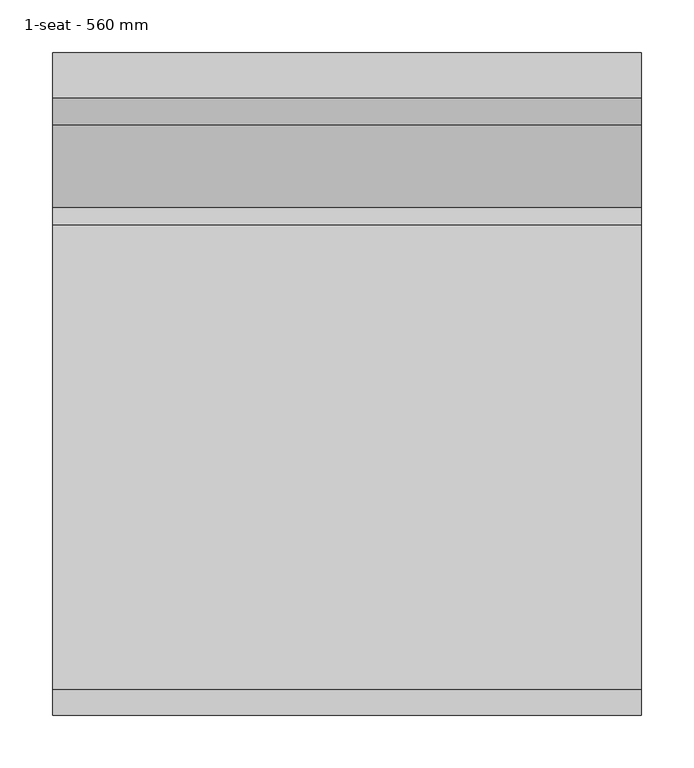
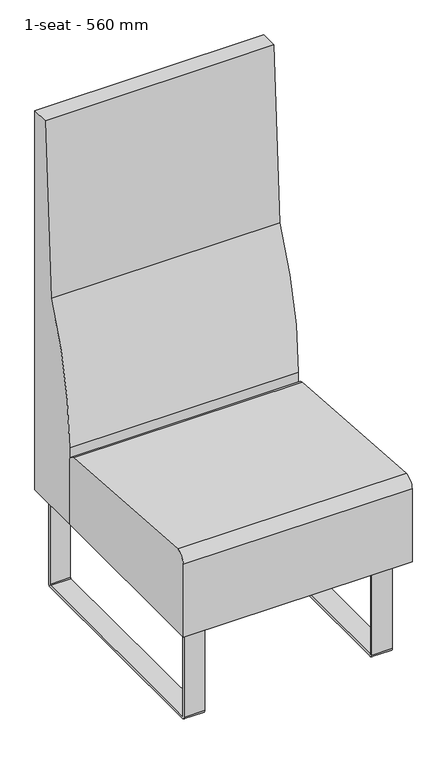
"""IFC4 building model written with IfcOpenShell, lengths in millimetres: furniture geometry, MATERIA-Monolite-Sofa-Extended_Back : 1-seat - 560 mm."""

from ifc_helpers import new_model, si_unit, point, frame, frame_2d, origin, place, context, project, spatial, polyline, circle_curve, trimmed, segment, composite_curve, outline, extrude, source, transform, mapped, element, save


def furniture_1_seat_560_mm_57b8e91f(model_context):
    return source(origin(), model_context, "Body", "SweptSolid", [
        extrude(outline(composite_curve([segment(trimmed(circle_curve(frame_2d((-23.0000292, 239.0000149)), 8.0), [point((-23.0000292, 247.0000149))], [point((-15.0000292, 239.0000149))], False, "CARTESIAN"), True, "CONTINUOUS"), segment(polyline([(-15.0000292, 239.0000149), (-15.0000292, 8.0)]), True, "CONTINUOUS"), segment(trimmed(circle_curve(frame_2d((-23.0000292, 8.0)), 8.0), [point((-15.0000292, 8.0))], [point((-23.0000292, 0.0))], False, "CARTESIAN"), True, "CONTINUOUS"), segment(polyline([(-23.0000292, 0.0), (-582.0, 0.0)]), True, "CONTINUOUS"), segment(trimmed(circle_curve(frame_2d((-582.0, 8.0)), 8.0), [point((-582.0, 0.0))], [point((-590.0, 8.0))], False, "CARTESIAN"), True, "CONTINUOUS"), segment(polyline([(-590.0, 8.0), (-590.0, 248.000015), (-584.0, 248.000015), (-584.0, 8.0)]), True, "CONTINUOUS"), segment(trimmed(circle_curve(frame_2d((-582.0, 8.0)), 2.0), [point((-584.0, 8.0))], [point((-582.0, 6.0))], True, "CARTESIAN"), True, "CONTINUOUS"), segment(polyline([(-582.0, 6.0), (-23.0000292, 6.0)]), True, "CONTINUOUS"), segment(trimmed(circle_curve(frame_2d((-23.0000292, 8.0)), 2.0), [point((-23.0000292, 6.0))], [point((-21.0000292, 8.0))], True, "CARTESIAN"), True, "CONTINUOUS"), segment(polyline([(-21.0000292, 8.0), (-21.0000292, 239.0000149)]), True, "CONTINUOUS"), segment(trimmed(circle_curve(frame_2d((-23.0000292, 239.0000149)), 2.0), [point((-21.0000292, 239.0000149))], [point((-23.0000292, 241.0000149))], True, "CARTESIAN"), True, "CONTINUOUS"), segment(polyline([(-23.0000292, 241.0000149), (-123.0000504, 241.0000149), (-123.0000504, 247.0000149), (-23.0000292, 247.0000149)]), True, "CONTINUOUS")], self_intersect=False)), frame((204.9999917, 0.0, 0.0), z_axis=(1.0, 0.0, 0.0), x_axis=(0.0, 1.0, 0.0)), (0.0, 0.0, 1.0), 49.999964),
        extrude(outline(composite_curve([segment(trimmed(circle_curve(frame_2d((-23.0000292, 239.0000149)), 8.0), [point((-23.0000292, 247.0000149))], [point((-15.0000292, 239.0000149))], False, "CARTESIAN"), True, "CONTINUOUS"), segment(polyline([(-15.0000292, 239.0000149), (-15.0000292, 8.0)]), True, "CONTINUOUS"), segment(trimmed(circle_curve(frame_2d((-23.0000292, 8.0)), 8.0), [point((-15.0000292, 8.0))], [point((-23.0000292, 0.0))], False, "CARTESIAN"), True, "CONTINUOUS"), segment(polyline([(-23.0000292, 0.0), (-582.0, 0.0)]), True, "CONTINUOUS"), segment(trimmed(circle_curve(frame_2d((-582.0, 8.0)), 8.0), [point((-582.0, 0.0))], [point((-590.0, 8.0))], False, "CARTESIAN"), True, "CONTINUOUS"), segment(polyline([(-590.0, 8.0), (-590.0, 248.000015), (-584.0, 248.000015), (-584.0, 8.0)]), True, "CONTINUOUS"), segment(trimmed(circle_curve(frame_2d((-582.0, 8.0)), 2.0), [point((-584.0, 8.0))], [point((-582.0, 6.0))], True, "CARTESIAN"), True, "CONTINUOUS"), segment(polyline([(-582.0, 6.0), (-23.0000292, 6.0)]), True, "CONTINUOUS"), segment(trimmed(circle_curve(frame_2d((-23.0000292, 8.0)), 2.0), [point((-23.0000292, 6.0))], [point((-21.0000292, 8.0))], True, "CARTESIAN"), True, "CONTINUOUS"), segment(polyline([(-21.0000292, 8.0), (-21.0000292, 239.0000149)]), True, "CONTINUOUS"), segment(trimmed(circle_curve(frame_2d((-23.0000292, 239.0000149)), 2.0), [point((-21.0000292, 239.0000149))], [point((-23.0000292, 241.0000149))], True, "CARTESIAN"), True, "CONTINUOUS"), segment(polyline([(-23.0000292, 241.0000149), (-123.0000504, 241.0000149), (-123.0000504, 247.0000149), (-23.0000292, 247.0000149)]), True, "CONTINUOUS")], self_intersect=False)), frame((-254.9999557, 0.0, 0.0), z_axis=(1.0, 0.0, 0.0), x_axis=(0.0, 1.0, 0.0)), (0.0, 0.0, 1.0), 49.999964),
        extrude(outline(composite_curve([segment(polyline([(-147.0000389, 248.000015), (-630.0, 248.000015), (-630.0, 437.2884276)]), True, "CONTINUOUS"), segment(trimmed(circle_curve(frame_2d((-605.0000646, 437.2884276)), 24.9999354), [point((-630.0, 437.2884276))], [point((-605.4110478, 462.2849846))], False, "CARTESIAN"), True, "CONTINUOUS"), segment(trimmed(circle_curve(frame_2d((-564.312542, -2037.3815818)), 2500.0044061), [point((-605.4110478, 462.2849846))], [point((-163.7959115, 430.3316226))], False, "CARTESIAN"), True, "CONTINUOUS"), segment(trimmed(circle_curve(frame_2d((-167.0000389, 410.5899518)), 20.0), [point((-163.7959115, 430.3316226))], [point((-147.0000389, 410.5899518))], False, "CARTESIAN"), True, "CONTINUOUS"), segment(polyline([(-147.0000389, 410.5899518), (-147.0000389, 248.000015)]), True, "CONTINUOUS")], self_intersect=False)), frame((-280.0, 0.0, 0.0), z_axis=(1.0, 0.0, 0.0), x_axis=(0.0, 1.0, 0.0)), (0.0, 0.0, 1.0), 560.0),
        extrude(outline(composite_curve([segment(polyline([(-147.0000389, 248.000015), (-147.0000389, 446.0000099)]), True, "CONTINUOUS"), segment(trimmed(circle_curve(frame_2d((627.5678884, 446.0000099)), 774.5679273), [point((-147.0000389, 446.0000099))], [point((-68.6091531, 785.5482405))], False, "CARTESIAN"), True, "CONTINUOUS"), segment(trimmed(circle_curve(frame_2d((4491.9277809, 744.7839853)), 4560.7191156), [point((-68.6091531, 785.5482405))], [point((-42.9067552, 1230.0))], False, "CARTESIAN"), True, "CONTINUOUS"), segment(polyline([(-42.9067552, 1230.0), (0.0, 1230.0), (0.0, 248.000015), (-147.0000389, 248.000015)]), True, "CONTINUOUS")], self_intersect=False)), frame((-280.0, 0.0, 0.0), z_axis=(1.0, 0.0, 0.0), x_axis=(0.0, 1.0, 0.0)), (0.0, 0.0, 1.0), 560.0),
    ])


if __name__ == "__main__":
    model = new_model("IFC4")
    model_context = context("Model", 3, world=origin())
    ifc_project = project(units=[si_unit("LENGTHUNIT", "METRE", prefix="MILLI")], contexts=[model_context])
    site = spatial("IfcSite", under=ifc_project)
    building = spatial("IfcBuilding", under=site)
    placement = place(None, origin())
    furniture_1_seat_560_mm_shape = furniture_1_seat_560_mm_57b8e91f(model_context)
    element("IfcFurniture", 1, ObjectType="MATERIA-Monolite-Sofa-Extended_Back : 1-seat - 560 mm", at=placement, inside=building, context=model_context, shape_type="MappedRepresentation", body=[
        mapped(furniture_1_seat_560_mm_shape, transform((0.0, 0.0, 0.0), x_axis=(1.0, 0.0, 0.0), y_axis=(0.0, 1.0, 0.0), z_axis=(0.0, 0.0, 1.0))),
    ])
    save(model, "model.ifc")
